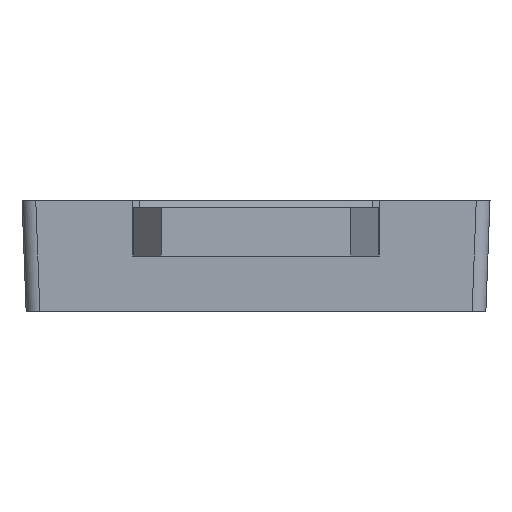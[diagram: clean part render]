
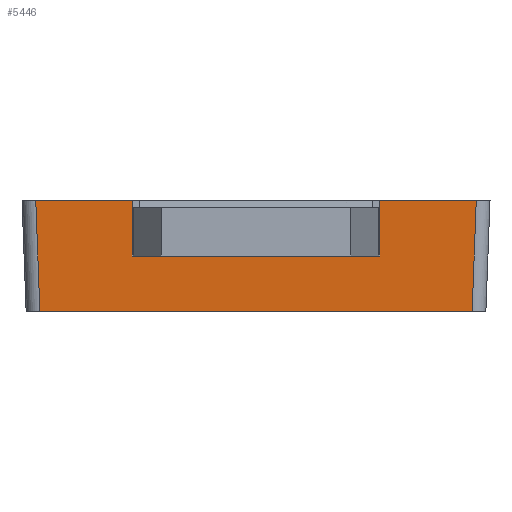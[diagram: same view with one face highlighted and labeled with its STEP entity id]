
A CAD part, front view. The second image highlights one B-rep face of the part: STEP entity #5446.
In plain terms, the highlighted planar face has unit normal (0, -0.999, -0.037).
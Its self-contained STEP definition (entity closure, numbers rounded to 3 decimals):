
#523=CARTESIAN_POINT('',(12.003,-102.168,4.0));
#524=VERTEX_POINT('',#523);
#525=CARTESIAN_POINT('',(7.103,-102.168,4.0));
#526=VERTEX_POINT('',#525);
#527=CARTESIAN_POINT('',(12.003,-102.168,4.0));
#528=DIRECTION('',(-1.0,0.0,0.0));
#529=VECTOR('',#528,4.9);
#530=LINE('',#527,#529);
#531=EDGE_CURVE('',#524,#526,#530,.T.);
#565=CARTESIAN_POINT('',(-5.797,-102.168,4.0));
#566=VERTEX_POINT('',#565);
#573=CARTESIAN_POINT('',(-0.897,-102.168,4.0));
#574=VERTEX_POINT('',#573);
#575=CARTESIAN_POINT('',(-0.897,-102.168,4.0));
#576=DIRECTION('',(-1.0,0.0,0.0));
#577=VECTOR('',#576,4.9);
#578=LINE('',#575,#577);
#579=EDGE_CURVE('',#574,#566,#578,.T.);
#3347=CARTESIAN_POINT('',(-5.897,-102.168,4.0));
#3348=VERTEX_POINT('',#3347);
#3355=CARTESIAN_POINT('',(-5.797,-102.168,4.0));
#3356=DIRECTION('',(-1.0,0.0,0.0));
#3357=VECTOR('',#3356,0.1);
#3358=LINE('',#3355,#3357);
#3359=EDGE_CURVE('',#566,#3348,#3358,.T.);
#3779=CARTESIAN_POINT('',(12.103,-102.168,4.0));
#3780=VERTEX_POINT('',#3779);
#3781=CARTESIAN_POINT('',(12.103,-102.168,4.0));
#3782=DIRECTION('',(-1.0,0.0,0.0));
#3783=VECTOR('',#3782,0.1);
#3784=LINE('',#3781,#3783);
#3785=EDGE_CURVE('',#3780,#524,#3784,.T.);
#3822=CARTESIAN_POINT('',(7.103,-102.168,4.0));
#3823=DIRECTION('',(-1.0,0.0,0.0));
#3824=VECTOR('',#3823,8.);
#3825=LINE('',#3822,#3824);
#3826=EDGE_CURVE('',#526,#574,#3825,.T.);
#4244=CARTESIAN_POINT('',(18.804,-102.018,0.0));
#4245=VERTEX_POINT('',#4244);
#4253=CARTESIAN_POINT('',(-12.597,-102.018,0.0));
#4254=VERTEX_POINT('',#4253);
#4255=CARTESIAN_POINT('',(-12.597,-102.018,0.0));
#4256=DIRECTION('',(1.0,0.0,0.0));
#4257=VECTOR('',#4256,31.401);
#4258=LINE('',#4255,#4257);
#4259=EDGE_CURVE('',#4254,#4245,#4258,.T.);
#5376=CARTESIAN_POINT('',(-12.897,-102.318,8.0));
#5377=VERTEX_POINT('',#5376);
#5387=CARTESIAN_POINT('',(-12.597,-102.018,0.));
#5388=DIRECTION('',(-0.037,-0.037,0.999));
#5389=VECTOR('',#5388,8.011);
#5390=LINE('',#5387,#5389);
#5391=EDGE_CURVE('',#4254,#5377,#5390,.T.);
#5396=CARTESIAN_POINT('',(11.603,-102.168,4.0));
#5397=DIRECTION('',(0.0,-0.999,-0.037));
#5398=DIRECTION('',(0.0,0.037,-0.999));
#5399=AXIS2_PLACEMENT_3D('',#5396,#5397,#5398);
#5400=PLANE('',#5399);
#5401=ORIENTED_EDGE('',*,*,#5391,.F.);
#5402=ORIENTED_EDGE('',*,*,#4259,.T.);
#5403=CARTESIAN_POINT('',(19.104,-102.318,8.0));
#5404=VERTEX_POINT('',#5403);
#5405=CARTESIAN_POINT('',(19.104,-102.318,8.0));
#5406=DIRECTION('',(-0.037,0.037,-0.999));
#5407=VECTOR('',#5406,8.011);
#5408=LINE('',#5405,#5407);
#5409=EDGE_CURVE('',#5404,#4245,#5408,.T.);
#5410=ORIENTED_EDGE('',*,*,#5409,.F.);
#5411=CARTESIAN_POINT('',(12.103,-102.318,8.0));
#5412=VERTEX_POINT('',#5411);
#5413=CARTESIAN_POINT('',(19.104,-102.318,8.0));
#5414=DIRECTION('',(-1.0,0.0,0.0));
#5415=VECTOR('',#5414,7.001);
#5416=LINE('',#5413,#5415);
#5417=EDGE_CURVE('',#5404,#5412,#5416,.T.);
#5418=ORIENTED_EDGE('',*,*,#5417,.T.);
#5419=CARTESIAN_POINT('',(12.103,-102.318,8.0));
#5420=DIRECTION('',(0.0,0.037,-0.999));
#5421=VECTOR('',#5420,4.003);
#5422=LINE('',#5419,#5421);
#5423=EDGE_CURVE('',#5412,#3780,#5422,.T.);
#5424=ORIENTED_EDGE('',*,*,#5423,.T.);
#5425=ORIENTED_EDGE('',*,*,#3785,.T.);
#5426=ORIENTED_EDGE('',*,*,#531,.T.);
#5427=ORIENTED_EDGE('',*,*,#3826,.T.);
#5428=ORIENTED_EDGE('',*,*,#579,.T.);
#5429=ORIENTED_EDGE('',*,*,#3359,.T.);
#5430=CARTESIAN_POINT('',(-5.897,-102.318,8.0));
#5431=VERTEX_POINT('',#5430);
#5432=CARTESIAN_POINT('',(-5.897,-102.168,4.0));
#5433=DIRECTION('',(0.0,-0.037,0.999));
#5434=VECTOR('',#5433,4.003);
#5435=LINE('',#5432,#5434);
#5436=EDGE_CURVE('',#3348,#5431,#5435,.T.);
#5437=ORIENTED_EDGE('',*,*,#5436,.T.);
#5438=CARTESIAN_POINT('',(-5.897,-102.318,8.0));
#5439=DIRECTION('',(-1.0,0.0,0.0));
#5440=VECTOR('',#5439,7.001);
#5441=LINE('',#5438,#5440);
#5442=EDGE_CURVE('',#5431,#5377,#5441,.T.);
#5443=ORIENTED_EDGE('',*,*,#5442,.T.);
#5444=EDGE_LOOP('',(#5401,#5402,#5410,#5418,#5424,#5425,#5426,#5427,#5428,#5429,#5437,#5443));
#5445=FACE_OUTER_BOUND('',#5444,.T.);
#5446=ADVANCED_FACE('',(#5445),#5400,.T.);
